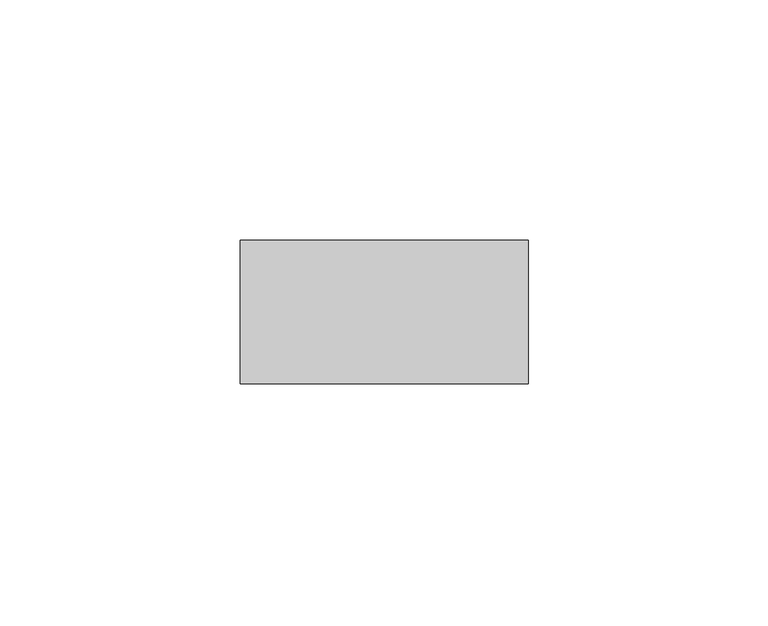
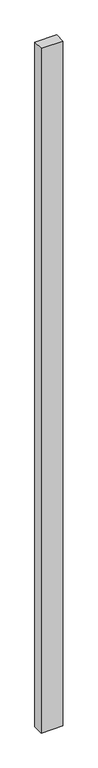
"""IFC4 building model written with IfcOpenShell, lengths in millimetres: member geometry, Прямоугольный импост : Квадрат 30 мм."""

from ifc_helpers import new_model, si_unit, frame, origin, place, context, project, spatial, polyline, outline, extrude, source, transform, mapped, element, save


def member_2972e41f(model_context):
    return source(origin(), model_context, "Body", "SweptSolid", [
        extrude(outline(polyline([(30.0, 15.0), (30.0, -15.0), (-30.0, -15.0), (-30.0, 15.0), (30.0, 15.0)])), frame((0.0, 0.0, -2000.0), z_axis=(0.0, 0.0, 1.0), x_axis=(1.0, 0.0, 0.0)), (0.0, 0.0, 1.0), 2000.0),
    ])


if __name__ == "__main__":
    model = new_model("IFC4")
    model_context = context("Model", 3, world=origin())
    ifc_project = project(units=[si_unit("LENGTHUNIT", "METRE", prefix="MILLI")], contexts=[model_context])
    site = spatial("IfcSite", under=ifc_project)
    building = spatial("IfcBuilding", under=site)
    placement = place(None, origin())
    member_shape = member_2972e41f(model_context)
    element("IfcMember", 1, ObjectType="Прямоугольный импост : Квадрат 30 мм", at=placement, inside=building, context=model_context, shape_type="MappedRepresentation", body=[
        mapped(member_shape, transform((0.0, 0.0, 0.0), x_axis=(1.0, 0.0, 0.0), y_axis=(0.0, 1.0, 0.0), z_axis=(0.0, 0.0, 1.0))),
    ])
    save(model, "model.ifc")
